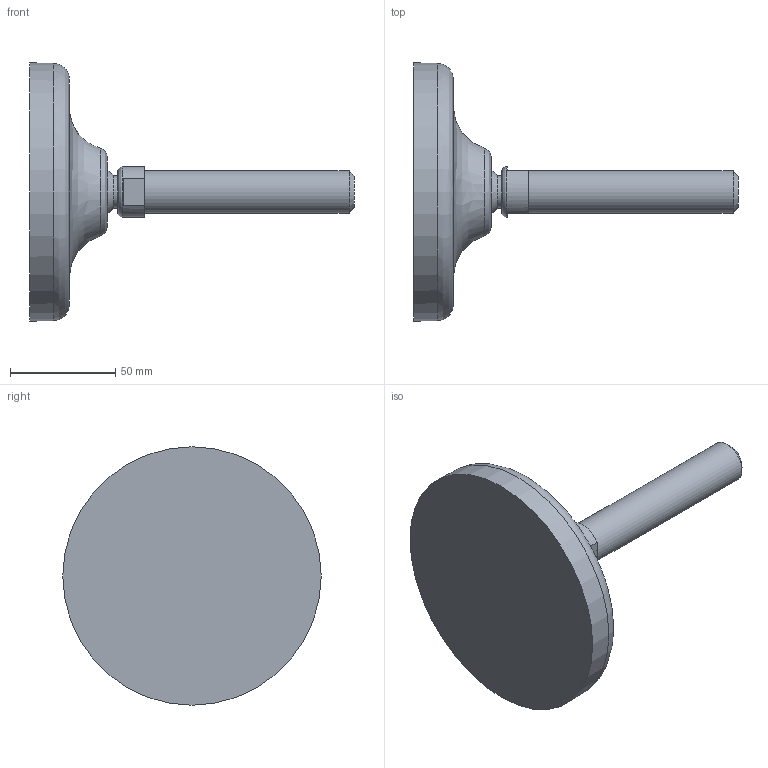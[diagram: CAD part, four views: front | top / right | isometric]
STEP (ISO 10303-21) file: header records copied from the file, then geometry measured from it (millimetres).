
FILE_DESCRIPTION(('STEP AP203'),'2;1');
FILE_NAME('10394.stp','2014-09-19T09:32:31',(''),(''),'2008.1.107','THINKDESIGN','');
FILE_SCHEMA(('CONFIG_CONTROL_DESIGN'));
Length unit declared in the file: millimetre
Bounding box: 154.53 x 123 x 123 mm (x, y, z)
Volume: 292439.5 mm3; surface area: 40335.2 mm2
Topology: 4 solids, 4 shells, 23 faces, 51 edges, 37 vertices
Faces by surface type: plane 13, bspline 7, cylinder 3
Full cylindrical faces by diameter (mm): 15.5 x1, 20 x1, 24 x1
Entity records: 1258 total; most frequent: CARTESIAN_POINT 633, DIRECTION 121, ORIENTED_EDGE 102, AXIS2_PLACEMENT_3D 54, EDGE_CURVE 51, CIRCLE 38, VERTEX_POINT 37, EDGE_LOOP 24
